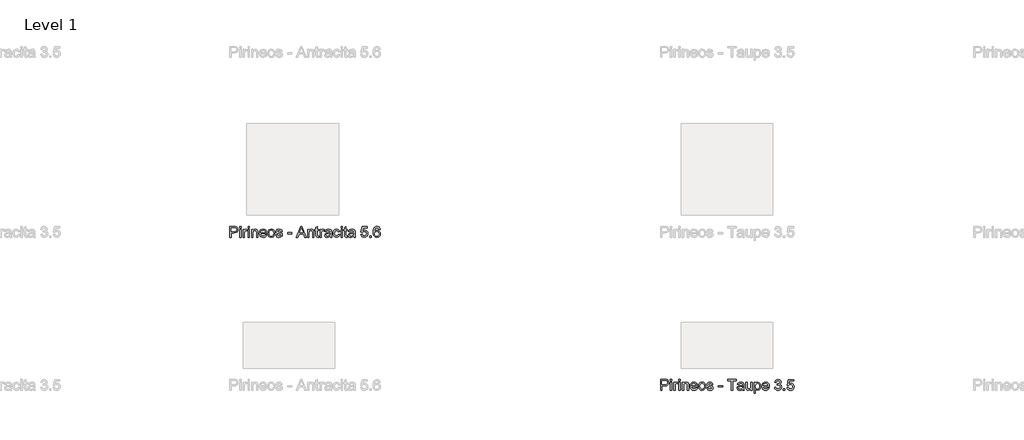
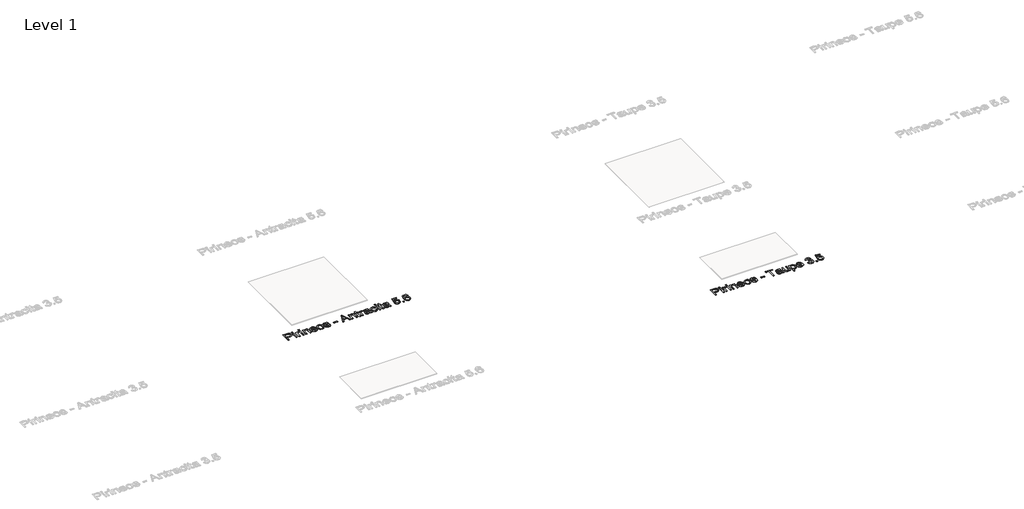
# One storey, part 24 of 80: 2 proxies.
"""IFC4 building model written with IfcOpenShell, lengths in millimetres."""

import ifcopenshell
import ifcopenshell.guid

model = None  # the IFC model being written
_history = None  # IfcOwnerHistory: only IFC2X3 demands one
_inside = {}  # id of a spatial element -> (the spatial element, [elements in it])
_under = {}  # id of a project, library or spatial element -> (it, [spatial elements below it])
_declared = {}  # id of a project -> (the project, [libraries it declares])
_typed = {}  # id of a type object -> (the type object, [elements of that type])
_made_of = {}  # id of a material, layer set ... -> (it, [elements and type objects made of it])


def new_model(schema):
    """Start an empty IFC model of exactly this schema.

    Asked for "IFC4X3", IfcOpenShell would pick the latest addendum, in which some entities
    have other attributes; the version numbers below select the first issue.
    IFC2X3 requires an IfcOwnerHistory on every rooted entity: one is made here for all.
    """
    global model, _history
    if schema == "IFC4X3":
        model = ifcopenshell.file(schema_version=(4, 3, 0, 0))
    else:
        model = ifcopenshell.file(schema=schema)
    _inside.clear()
    _under.clear()
    _declared.clear()
    _typed.clear()
    _made_of.clear()
    _history = None
    if model.schema == "IFC2X3":
        org = make("IfcOrganization", Name="unknown")
        user = make(
            "IfcPersonAndOrganization",
            ThePerson=make("IfcPerson", FamilyName="unknown"),
            TheOrganization=org,
        )
        app = make(
            "IfcApplication",
            ApplicationDeveloper=org,
            Version="unknown",
            ApplicationFullName="unknown",
            ApplicationIdentifier="unknown",
        )
        _history = make(
            "IfcOwnerHistory",
            OwningUser=user,
            OwningApplication=app,
            ChangeAction="ADDED",
            CreationDate=0,
        )
    return model


def make(cls, **values):
    """One entity of the class cls with the attributes given. An attribute that is None is left unset."""
    return model.create_entity(
        cls, **{name: value for name, value in values.items() if value is not None}
    )


def rooted(cls, **values):
    """An entity with a GlobalId (a new one), such as an element, a storey or a relation."""
    return make(cls, GlobalId=ifcopenshell.guid.new(), OwnerHistory=_history, **values)


def si_unit(unit_type, name, prefix=None):
    """IfcSIUnit, for example si_unit("LENGTHUNIT", "METRE", prefix="MILLI")."""
    return make("IfcSIUnit", UnitType=unit_type, Prefix=prefix, Name=name)


def assignment(units):
    """IfcUnitAssignment: the units of a project."""
    return None if units is None else make("IfcUnitAssignment", Units=units)


def point(xyz):
    """IfcCartesianPoint."""
    return None if xyz is None else make("IfcCartesianPoint", Coordinates=xyz)


def direction(xyz):
    """IfcDirection."""
    return None if xyz is None else make("IfcDirection", DirectionRatios=xyz)


def frame(location, z_axis=None, x_axis=None):
    """IfcAxis2Placement3D, a coordinate frame: its origin and axes. An axis left out is left unset."""
    return make(
        "IfcAxis2Placement3D",
        Location=point(location),
        Axis=direction(z_axis),
        RefDirection=direction(x_axis),
    )


def origin():
    """The frame at (0, 0, 0) with its axes left unset."""
    return frame((0.0, 0.0, 0.0))


def origin_with_axes():
    """The frame at (0, 0, 0) with the z axis (0, 0, 1) and the x axis (1, 0, 0) written out."""
    return frame((0.0, 0.0, 0.0), z_axis=(0.0, 0.0, 1.0), x_axis=(1.0, 0.0, 0.0))


def place(relative_to, where):
    """IfcLocalPlacement: puts the frame where relative to a parent placement (None: the world)."""
    return make(
        "IfcLocalPlacement", PlacementRelTo=relative_to, RelativePlacement=where
    )


def context(
    kind, dimensions, precision=None, world=None, true_north=None, identifier=None
):
    """IfcGeometricRepresentationContext, for example the 3D "Model" context."""
    return make(
        "IfcGeometricRepresentationContext",
        ContextIdentifier=identifier,
        ContextType=kind,
        CoordinateSpaceDimension=dimensions,
        Precision=precision,
        WorldCoordinateSystem=world,
        TrueNorth=true_north,
    )


def project(units=None, contexts=None):
    """IfcProject with its units and contexts."""
    return rooted(
        "IfcProject",
        Name="project",
        RepresentationContexts=contexts,
        UnitsInContext=assignment(units),
    )


def spatial(cls, under=None, at=None, **own):
    """A site, building, storey or space (cls), placed at a placement, below another one or the project."""
    s = rooted(cls, ObjectPlacement=at, **own)
    if under is not None:
        _under.setdefault(under.id(), (under, []))[1].append(s)
    return s


def polyline(points):
    """IfcPolyline through the points."""
    return make("IfcPolyline", Points=[point(p) for p in points])


def outline(outer, holes=None, kind="AREA"):
    """IfcArbitraryClosedProfileDef: a profile drawn as a closed curve; with holes, ...WithVoids."""
    if holes is None:
        return make("IfcArbitraryClosedProfileDef", ProfileType=kind, OuterCurve=outer)
    return make(
        "IfcArbitraryProfileDefWithVoids",
        ProfileType=kind,
        OuterCurve=outer,
        InnerCurves=holes,
    )


def extrude(swept, where, along, depth):
    """IfcExtrudedAreaSolid: the profile swept, set in the frame where, extruded along a direction by depth."""
    return make(
        "IfcExtrudedAreaSolid",
        SweptArea=swept,
        Position=where,
        ExtrudedDirection=direction(along),
        Depth=depth,
    )


def shape(context_of_items, identifier, shape_type, items):
    """IfcShapeRepresentation: the items that make up one representation, for example the "Body"."""
    return make(
        "IfcShapeRepresentation",
        ContextOfItems=context_of_items,
        RepresentationIdentifier=identifier,
        RepresentationType=shape_type,
        Items=items,
    )


def made_of(thing, what):
    """Note that an element or type object is made of a material, layer set ...; save() writes the relation."""
    if what is not None:
        _made_of.setdefault(what.id(), (what, []))[1].append(thing)
    return thing


def element(
    cls,
    number,
    at=None,
    inside=None,
    cuts=None,
    type_object=None,
    material=None,
    context=None,
    identifier="Body",
    shape_type=None,
    held_by="IfcProductDefinitionShape",
    body=None,
    shapes=None,
    **own,
):
    """One element of the class cls, such as IfcWall. Its Tag is "e" and its number.

    at: its placement. inside: the storey or other place that contains it. cuts: it is an
    opening in that element (IfcRelVoidsElement). A single representation is given by context,
    identifier, shape_type and body (its items); several are given by shapes. held_by: the class
    of the entity that holds the representations. save() writes the other relations.
    """
    e = rooted(cls, Tag="e%d" % number, ObjectPlacement=at, **own)
    if body is not None:
        shapes = [shape(context, identifier, shape_type, body)]
    if shapes is not None:
        e.Representation = make(held_by, Representations=shapes)
    if inside is not None:
        _inside.setdefault(inside.id(), (inside, []))[1].append(e)
    if cuts is not None:
        rooted(
            "IfcRelVoidsElement", RelatingBuildingElement=cuts, RelatedOpeningElement=e
        )
    if type_object is not None:
        _typed.setdefault(type_object.id(), (type_object, []))[1].append(e)
    return made_of(e, material)


def aggregate(whole, parts):
    """IfcRelAggregates: a whole, such as a stair, and the parts it consists of."""
    return rooted("IfcRelAggregates", RelatingObject=whole, RelatedObjects=parts)


def save(model, path):
    """Write the relations noted so far, then the file.

    IfcRelAggregates (storeys below a building ...), IfcRelContainedInSpatialStructure (elements
    in a storey), IfcRelDefinesByType, IfcRelAssociatesMaterial and IfcRelDeclares: one each for
    every whole, place, type object, material and project.
    """
    for whole, parts in _under.values():
        aggregate(whole, parts)
    for where, things in _inside.values():
        rooted(
            "IfcRelContainedInSpatialStructure",
            RelatedElements=things,
            RelatingStructure=where,
        )
    for kind, things in _typed.values():
        rooted("IfcRelDefinesByType", RelatedObjects=things, RelatingType=kind)
    for what, things in _made_of.values():
        rooted("IfcRelAssociatesMaterial", RelatedObjects=things, RelatingMaterial=what)
    for by, libraries in _declared.values():
        rooted("IfcRelDeclares", RelatingContext=by, RelatedDefinitions=libraries)
    model.write(path)


model = new_model("IFC4")

# Units and contexts
model_context = context("Model", 3, world=origin())
ifc_project = project(units=[si_unit("LENGTHUNIT", "METRE", prefix="MILLI")], contexts=[model_context])

# Site, building, storey
site = spatial("IfcSite", under=ifc_project)
building = spatial("IfcBuilding", under=site)
storey = spatial("IfcBuildingStorey", under=building, Name="Level 1", Elevation=0.0)

# Proxies
placement = place(None, origin())
element("IfcBuildingElementProxy", 1, Name="24\" Arial", ObjectType="24\" Arial", at=placement, inside=storey, context=model_context, shape_type="SweptSolid", body=[
    extrude(outline(polyline([(-15830.3068771, -616.5984808), (-15830.3068771, -498.4446346), (-15786.5184156, -498.4446346), (-15768.8645694, -499.5696346), (-15754.5136079, -505.0936731), (-15745.2107233, -516.51675), (-15741.6914925, -532.6273269), (-15744.0676944, -546.5528077), (-15751.1963002, -558.1561731), (-15764.5268291, -565.9879038), (-15785.5088002, -568.5984808), (-15815.5376464, -568.5984808), (-15815.5376464, -616.5984808), (-15830.3068771, -616.5984808)]), holes=[polyline([(-15815.5376464, -553.82925), (-15784.6434156, -553.82925), (-15771.5472617, -552.4734808), (-15762.8934156, -548.4061731), (-15758.0688964, -541.8797308), (-15756.4607233, -533.1465577), (-15760.2539925, -520.9157884), (-15770.2203387, -514.2234808), (-15784.9895694, -513.2138654), (-15815.5376464, -513.2138654), (-15815.5376464, -553.82925)])]), origin_with_axes(), (0.0, 0.0, 1.0), 2.0),
    extrude(outline(polyline([(-15723.2299541, -616.5984808), (-15723.2299541, -529.82925), (-15708.4607233, -529.82925), (-15708.4607233, -616.5984808), (-15723.2299541, -616.5984808)])), origin_with_axes(), (0.0, 0.0, 1.0), 2.0),
    extrude(outline(polyline([(-15723.2299541, -513.2138654), (-15723.2299541, -498.4446346), (-15708.4607233, -498.4446346), (-15708.4607233, -513.2138654), (-15723.2299541, -513.2138654)])), origin_with_axes(), (0.0, 0.0, 1.0), 2.0),
    extrude(outline(polyline([(-15686.3068771, -616.5984808), (-15686.3068771, -529.82925), (-15673.3838002, -529.82925), (-15673.3838002, -542.6657884), (-15664.2107233, -530.8388654), (-15654.9799541, -527.9830961), (-15640.153031, -532.5407884), (-15645.0857233, -545.7811731), (-15655.4703387, -542.7523269), (-15663.8213002, -545.6657884), (-15669.1434156, -553.7427115), (-15671.5376464, -570.9927115), (-15671.5376464, -616.5984808), (-15686.3068771, -616.5984808)])), origin_with_axes(), (0.0, 0.0, 1.0), 2.0),
    extrude(outline(polyline([(-15630.9222617, -616.5984808), (-15630.9222617, -529.82925), (-15616.153031, -529.82925), (-15616.153031, -616.5984808), (-15630.9222617, -616.5984808)])), origin_with_axes(), (0.0, 0.0, 1.0), 2.0),
    extrude(outline(polyline([(-15630.9222617, -513.2138654), (-15630.9222617, -498.4446346), (-15616.153031, -498.4446346), (-15616.153031, -513.2138654), (-15630.9222617, -513.2138654)])), origin_with_axes(), (0.0, 0.0, 1.0), 2.0),
    extrude(outline(polyline([(-15593.9991848, -616.5984808), (-15593.9991848, -529.82925), (-15579.2299541, -529.82925), (-15579.2299541, -541.9446346), (-15567.9366848, -531.4734808), (-15552.5184156, -527.9830961), (-15538.5713002, -530.7955961), (-15529.0520694, -538.1802115), (-15524.6241848, -549.0407884), (-15523.8453387, -563.3196346), (-15523.8453387, -616.5984808), (-15538.6145694, -616.5984808), (-15538.6145694, -565.3100192), (-15540.3164925, -552.2427115), (-15546.3309156, -545.3340577), (-15556.4703387, -542.7523269), (-15572.4943771, -548.5504038), (-15577.5460598, -556.9518461), (-15579.2299541, -570.5600192), (-15579.2299541, -616.5984808), (-15593.9991848, -616.5984808)])), origin_with_axes(), (0.0, 0.0, 1.0), 2.0),
    extrude(outline(polyline([(-15442.7876464, -590.7523269), (-15428.3068771, -592.5984808), (-15433.5244252, -603.5095384), (-15441.8501464, -611.6657884), (-15453.0965406, -616.7499231), (-15467.0761079, -618.4446346), (-15484.4054348, -615.5203558), (-15497.7395694, -606.7475192), (-15506.2419733, -592.6958365), (-15509.0761079, -573.9350192), (-15506.2131271, -554.5431923), (-15497.6241848, -540.0407884), (-15484.4703387, -530.9975192), (-15467.9126464, -527.9830961), (-15451.8705791, -530.9903077), (-15439.0520694, -540.0119423), (-15430.6470214, -554.4855), (-15427.8453387, -573.8484808), (-15427.9318771, -577.82925), (-15494.3068771, -577.82925), (-15491.7503867, -588.8845384), (-15485.8116848, -597.0119423), (-15477.2407714, -602.0095384), (-15466.7876464, -603.6754038), (-15452.3068771, -600.5888654), (-15442.7876464, -590.7523269)]), holes=[polyline([(-15494.3068771, -563.0600192), (-15442.6145694, -563.0600192), (-15448.528031, -549.6754038), (-15457.1386079, -544.4830961), (-15467.9703387, -542.7523269), (-15486.1578387, -548.2763654), (-15491.8801944, -554.7342981), (-15494.3068771, -563.0600192)])]), origin_with_axes(), (0.0, 0.0, 1.0), 2.0),
    extrude(outline(polyline([(-15416.7684156, -573.2138654), (-15413.5737041, -552.2931923), (-15403.9895694, -537.5888654), (-15392.1482233, -530.3845384), (-15377.9703387, -527.9830961), (-15362.4547137, -530.907375), (-15350.0616848, -539.6802115), (-15341.9378867, -553.6092981), (-15339.2299541, -572.0023269), (-15344.0184156, -598.2811731), (-15357.965531, -613.1513654), (-15377.9703387, -618.4446346), (-15393.6734637, -615.5311731), (-15406.0520694, -606.7907884), (-15414.0893291, -592.5696346), (-15416.7684156, -573.2138654)]), holes=[polyline([(-15401.9991848, -573.1850192), (-15400.2900502, -586.5516058), (-15395.1626464, -596.0744423), (-15387.4463002, -601.7751634), (-15377.9703387, -603.6754038), (-15368.5376464, -601.7643461), (-15360.8357233, -596.0311731), (-15355.7083194, -586.3821346), (-15353.9991848, -572.7234808), (-15355.7191367, -559.7463173), (-15360.8789925, -550.3532884), (-15368.5917329, -544.6525673), (-15377.9703387, -542.7523269), (-15387.4463002, -544.6453558), (-15395.1626464, -550.3244423), (-15400.2900502, -559.8256442), (-15401.9991848, -573.1850192)])]), origin_with_axes(), (0.0, 0.0, 1.0), 2.0),
    extrude(outline(polyline([(-15328.153031, -590.7523269), (-15313.3838002, -588.9061731), (-15306.5472617, -599.8677115), (-15290.8838002, -603.6754038), (-15275.8261079, -600.1850192), (-15270.9222617, -591.9927115), (-15275.8549541, -585.3580961), (-15291.0568771, -581.1465577), (-15313.2972617, -573.9205961), (-15323.0039925, -565.4830961), (-15326.3068771, -553.5696346), (-15323.653031, -542.5648269), (-15316.4126464, -534.1561731), (-15307.0232233, -529.7859808), (-15294.3164925, -527.9830961), (-15276.3453387, -530.8821346), (-15264.9222617, -538.7282884), (-15259.8453387, -551.9830961), (-15274.6145694, -553.82925), (-15280.1674541, -545.6802115), (-15293.1626464, -542.7523269), (-15307.2972617, -545.5504038), (-15311.5376464, -552.0696346), (-15309.778031, -556.3677115), (-15304.2684156, -559.6273269), (-15291.5472617, -562.7715577), (-15269.8693771, -569.7234808), (-15259.8020694, -577.5984808), (-15256.153031, -590.4350192), (-15260.4366848, -604.5696346), (-15272.7972617, -614.8244423), (-15291.0857233, -618.4446346), (-15305.9775502, -616.6994423), (-15316.8453387, -611.4638654), (-15324.1001464, -602.7955961), (-15328.153031, -590.7523269)])), origin_with_axes(), (0.0, 0.0, 1.0), 2.0),
    extrude(outline(polyline([(-15200.7684156, -581.5215577), (-15200.7684156, -566.7523269), (-15154.6145694, -566.7523269), (-15154.6145694, -581.5215577), (-15200.7684156, -581.5215577)])), origin_with_axes(), (0.0, 0.0, 1.0), 2.0),
    extrude(outline(polyline([(-15103.7588002, -616.5984808), (-15056.5953387, -498.4446346), (-15044.0184156, -498.4446346), (-14996.8549541, -616.5984808), (-15012.4607233, -616.5984808), (-15025.9895694, -579.6754038), (-15074.653031, -579.6754038), (-15088.153031, -616.5984808), (-15103.7588002, -616.5984808)]), holes=[polyline([(-15069.2299541, -564.9061731), (-15031.3838002, -564.9061731), (-15042.028031, -535.8580961), (-15050.3068771, -513.2138654), (-15057.6626464, -533.3196346), (-15069.2299541, -564.9061731)])]), origin_with_axes(), (0.0, 0.0, 1.0), 2.0),
    extrude(outline(polyline([(-14982.9222617, -616.5984808), (-14982.9222617, -529.82925), (-14968.153031, -529.82925), (-14968.153031, -541.9446346), (-14956.8597617, -531.4734808), (-14941.4414925, -527.9830961), (-14927.4943771, -530.7955961), (-14917.9751464, -538.1802115), (-14913.5472617, -549.0407884), (-14912.7684156, -563.3196346), (-14912.7684156, -616.5984808), (-14927.5376464, -616.5984808), (-14927.5376464, -565.3100192), (-14929.2395694, -552.2427115), (-14935.2539925, -545.3340577), (-14945.3934156, -542.7523269), (-14961.4174541, -548.5504038), (-14966.4691367, -556.9518461), (-14968.153031, -570.5600192), (-14968.153031, -616.5984808), (-14982.9222617, -616.5984808)])), origin_with_axes(), (0.0, 0.0, 1.0), 2.0),
    extrude(outline(polyline([(-14861.0761079, -604.2811731), (-14859.2299541, -617.0311731), (-14870.278031, -618.4446346), (-14882.653031, -615.9927115), (-14888.8261079, -609.5600192), (-14890.6145694, -592.8004038), (-14890.6145694, -544.5984808), (-14901.6914925, -544.5984808), (-14901.6914925, -529.82925), (-14890.6145694, -529.82925), (-14890.6145694, -508.7427115), (-14875.8453387, -500.0600192), (-14875.8453387, -529.82925), (-14861.0761079, -529.82925), (-14861.0761079, -544.5984808), (-14875.8453387, -544.5984808), (-14875.8453387, -592.3677115), (-14875.0664925, -599.9830961), (-14872.5424541, -602.6802115), (-14867.5088002, -603.6754038), (-14861.0761079, -604.2811731)])), origin_with_axes(), (0.0, 0.0, 1.0), 2.0),
    extrude(outline(polyline([(-14846.3068771, -616.5984808), (-14846.3068771, -529.82925), (-14833.3838002, -529.82925), (-14833.3838002, -542.6657884), (-14824.2107233, -530.8388654), (-14814.9799541, -527.9830961), (-14800.153031, -532.5407884), (-14805.0857233, -545.7811731), (-14815.4703387, -542.7523269), (-14823.8213002, -545.6657884), (-14829.1434156, -553.7427115), (-14831.5376464, -570.9927115), (-14831.5376464, -616.5984808), (-14846.3068771, -616.5984808)])), origin_with_axes(), (0.0, 0.0, 1.0), 2.0),
    extrude(outline(polyline([(-14735.5376464, -605.5215577), (-14749.8597617, -615.5311731), (-14765.6818771, -618.4446346), (-14778.0244252, -616.6922308), (-14787.1289925, -611.4350192), (-14792.7431752, -603.4518461), (-14794.6145694, -593.5215577), (-14791.7876464, -581.8388654), (-14784.3597617, -573.3580961), (-14774.0184156, -568.5119423), (-14761.2395694, -566.2907884), (-14735.6241848, -561.2138654), (-14735.5376464, -557.9254038), (-14739.6049541, -547.0215577), (-14755.9318771, -542.7523269), (-14770.8741848, -545.5936731), (-14777.9991848, -555.6754038), (-14792.7684156, -553.82925), (-14786.3789925, -539.4061731), (-14773.5136079, -530.95425), (-14754.028031, -527.9830961), (-14736.1289925, -530.6080961), (-14726.0184156, -537.1994423), (-14721.4895694, -547.2234808), (-14720.7684156, -560.1465577), (-14720.7684156, -578.5215577), (-14720.0184156, -604.1802115), (-14717.0761079, -616.5984808), (-14731.8453387, -616.5984808), (-14735.5376464, -605.5215577)]), holes=[polyline([(-14735.5376464, -575.9830961), (-14759.3645694, -580.5119423), (-14772.0713002, -582.9061731), (-14777.8261079, -586.8004038), (-14779.8453387, -592.4830961), (-14775.4463002, -600.4734808), (-14762.5376464, -603.6754038), (-14747.5953387, -600.14175), (-14737.9607233, -591.5888654), (-14735.6241848, -580.1657884), (-14735.5376464, -575.9830961)])]), origin_with_axes(), (0.0, 0.0, 1.0), 2.0),
    extrude(outline(polyline([(-14645.0761079, -585.2138654), (-14630.3068771, -587.0600192), (-14634.4246656, -600.1958365), (-14642.1626464, -610.1225192), (-14652.7924541, -616.3641058), (-14665.5857233, -618.4446346), (-14681.2960598, -615.5419904), (-14693.5809156, -606.8340577), (-14701.5100021, -592.7030481), (-14704.153031, -573.5311731), (-14699.6386079, -548.9975192), (-14693.9414925, -539.7992019), (-14685.8789925, -533.2330961), (-14665.7876464, -527.9830961), (-14653.3080791, -529.7859808), (-14643.3309156, -535.1946346), (-14636.1734637, -543.9205961), (-14632.153031, -555.6754038), (-14646.9222617, -557.5215577), (-14653.7732233, -546.4590577), (-14665.6722617, -542.7523269), (-14675.2167329, -544.5768461), (-14682.7924541, -550.0504038), (-14687.7359637, -559.4686731), (-14689.3838002, -573.1273269), (-14687.7720214, -586.969875), (-14682.9366848, -596.4205961), (-14675.4979829, -601.8617019), (-14666.0761079, -603.6754038), (-14652.1578387, -599.1465577), (-14645.0761079, -585.2138654)])), origin_with_axes(), (0.0, 0.0, 1.0), 2.0),
    extrude(outline(polyline([(-14617.3838002, -616.5984808), (-14617.3838002, -529.82925), (-14602.6145694, -529.82925), (-14602.6145694, -616.5984808), (-14617.3838002, -616.5984808)])), origin_with_axes(), (0.0, 0.0, 1.0), 2.0),
    extrude(outline(polyline([(-14617.3838002, -513.2138654), (-14617.3838002, -498.4446346), (-14602.6145694, -498.4446346), (-14602.6145694, -513.2138654), (-14617.3838002, -513.2138654)])), origin_with_axes(), (0.0, 0.0, 1.0), 2.0),
    extrude(outline(polyline([(-14549.0761079, -604.2811731), (-14547.2299541, -617.0311731), (-14558.278031, -618.4446346), (-14570.653031, -615.9927115), (-14576.8261079, -609.5600192), (-14578.6145694, -592.8004038), (-14578.6145694, -544.5984808), (-14589.6914925, -544.5984808), (-14589.6914925, -529.82925), (-14578.6145694, -529.82925), (-14578.6145694, -508.7427115), (-14563.8453387, -500.0600192), (-14563.8453387, -529.82925), (-14549.0761079, -529.82925), (-14549.0761079, -544.5984808), (-14563.8453387, -544.5984808), (-14563.8453387, -592.3677115), (-14563.0664925, -599.9830961), (-14560.5424541, -602.6802115), (-14555.5088002, -603.6754038), (-14549.0761079, -604.2811731)])), origin_with_axes(), (0.0, 0.0, 1.0), 2.0),
    extrude(outline(polyline([(-14478.9222617, -605.5215577), (-14493.2443771, -615.5311731), (-14509.0664925, -618.4446346), (-14521.4090406, -616.6922308), (-14530.5136079, -611.4350192), (-14536.1277906, -603.4518461), (-14537.9991848, -593.5215577), (-14535.1722617, -581.8388654), (-14527.7443771, -573.3580961), (-14517.403031, -568.5119423), (-14504.6241848, -566.2907884), (-14479.0088002, -561.2138654), (-14478.9222617, -557.9254038), (-14482.9895694, -547.0215577), (-14499.3164925, -542.7523269), (-14514.2588002, -545.5936731), (-14521.3838002, -555.6754038), (-14536.153031, -553.82925), (-14529.7636079, -539.4061731), (-14516.8982233, -530.95425), (-14497.4126464, -527.9830961), (-14479.5136079, -530.6080961), (-14469.403031, -537.1994423), (-14464.8741848, -547.2234808), (-14464.153031, -560.1465577), (-14464.153031, -578.5215577), (-14463.403031, -604.1802115), (-14460.4607233, -616.5984808), (-14475.2299541, -616.5984808), (-14478.9222617, -605.5215577)]), holes=[polyline([(-14478.9222617, -575.9830961), (-14502.7491848, -580.5119423), (-14515.4559156, -582.9061731), (-14521.2107233, -586.8004038), (-14523.2299541, -592.4830961), (-14518.8309156, -600.4734808), (-14505.9222617, -603.6754038), (-14490.9799541, -600.14175), (-14481.3453387, -591.5888654), (-14479.0088002, -580.1657884), (-14478.9222617, -575.9830961)])]), origin_with_axes(), (0.0, 0.0, 1.0), 2.0),
    extrude(outline(polyline([(-14401.3838002, -585.2138654), (-14386.6145694, -583.3677115), (-14379.1722617, -598.5840577), (-14363.7395694, -603.6754038), (-14353.153031, -601.9049711), (-14345.2203387, -596.5936731), (-14340.2660117, -588.3544904), (-14338.6145694, -577.8004038), (-14340.1614444, -567.8629038), (-14344.8020694, -560.2619423), (-14352.5725021, -555.4374231), (-14363.5088002, -553.82925), (-14376.4751464, -556.3965577), (-14384.7684156, -563.0600192), (-14399.5376464, -561.2138654), (-14386.6145694, -500.2907884), (-14329.3838002, -500.2907884), (-14329.3838002, -515.0600192), (-14374.6722617, -515.0600192), (-14380.9895694, -547.5984808), (-14370.4390887, -541.1946346), (-14359.3838002, -539.0600192), (-14345.5845214, -541.7066538), (-14334.1289925, -549.6465577), (-14326.4162521, -561.7475192), (-14323.8453387, -576.8773269), (-14326.1602425, -591.6465577), (-14333.1049541, -604.2811731), (-14346.403031, -614.9037692), (-14363.7972617, -618.4446346), (-14378.3032714, -616.1693942), (-14389.8597617, -609.3436731), (-14397.7816367, -598.7607404), (-14401.3838002, -585.2138654)])), origin_with_axes(), (0.0, 0.0, 1.0), 2.0),
    extrude(outline(polyline([(-14303.5376464, -616.5984808), (-14303.5376464, -601.82925), (-14288.7684156, -601.82925), (-14288.7684156, -616.5984808), (-14303.5376464, -616.5984808)])), origin_with_axes(), (0.0, 0.0, 1.0), 2.0),
    extrude(outline(polyline([(-14189.0761079, -529.82925), (-14203.8453387, -531.6754038), (-14209.4414925, -519.3580961), (-14216.1410117, -514.7499231), (-14224.2395694, -513.2138654), (-14237.5664925, -516.7907884), (-14247.6482233, -530.2186731), (-14251.8453387, -556.5407884), (-14238.8213002, -544.7571346), (-14222.6818771, -540.9061731), (-14209.0376464, -543.5383846), (-14197.5857233, -551.4350192), (-14189.8188964, -563.4999231), (-14187.2299541, -578.6369423), (-14192.1049541, -599.01675), (-14205.5184156, -613.4398269), (-14224.8741848, -618.4446346), (-14241.6301944, -615.1273269), (-14254.9751464, -605.1754038), (-14263.7047137, -587.6080961), (-14266.6145694, -561.4446346), (-14263.3838002, -532.0287692), (-14253.6914925, -511.9157884), (-14240.4583194, -501.8124231), (-14223.3164925, -498.4446346), (-14210.3573579, -500.5287692), (-14199.9799541, -506.7811731), (-14192.7107233, -516.7114615), (-14189.0761079, -529.82925)]), holes=[polyline([(-14251.8453387, -578.4061731), (-14248.4270694, -591.1994423), (-14239.340531, -600.4879038), (-14226.028031, -603.6754038), (-14216.2816367, -602.0239615), (-14208.6193771, -597.0696346), (-14203.6542329, -589.2811731), (-14201.9991848, -579.1273269), (-14203.6325983, -569.3809327), (-14208.5328387, -561.9494423), (-14216.324906, -557.2439134), (-14226.6338002, -555.6754038), (-14236.3657714, -557.2439134), (-14244.5039925, -561.9494423), (-14250.0100021, -569.2006442), (-14251.8453387, -578.4061731)])]), origin_with_axes(), (0.0, 0.0, 1.0), 2.0),
])
element("IfcBuildingElementProxy", 2, Name="24\" Arial", ObjectType="24\" Arial", at=placement, inside=storey, context=model_context, shape_type="SweptSolid", body=[
    extrude(outline(polyline([(-11130.153031, -2287.8052427), (-11130.153031, -2169.6513966), (-11086.3645694, -2169.6513966), (-11068.7107233, -2170.7763966), (-11054.3597617, -2176.300435), (-11045.0568771, -2187.723512), (-11041.5376464, -2203.8340889), (-11043.9138483, -2217.7595697), (-11051.0424541, -2229.362935), (-11064.3729829, -2237.1946658), (-11085.3549541, -2239.8052427), (-11115.3838002, -2239.8052427), (-11115.3838002, -2287.8052427), (-11130.153031, -2287.8052427)]), holes=[polyline([(-11115.3838002, -2225.036012), (-11084.4895694, -2225.036012), (-11071.3934156, -2223.6802427), (-11062.7395694, -2219.612935), (-11057.9150502, -2213.0864927), (-11056.3068771, -2204.3533197), (-11060.1001464, -2192.1225504), (-11070.0664925, -2185.4302427), (-11084.8357233, -2184.4206273), (-11115.3838002, -2184.4206273), (-11115.3838002, -2225.036012)])]), origin_with_axes(), (0.0, 0.0, 1.0), 2.0),
    extrude(outline(polyline([(-11023.0761079, -2287.8052427), (-11023.0761079, -2201.036012), (-11008.3068771, -2201.036012), (-11008.3068771, -2287.8052427), (-11023.0761079, -2287.8052427)])), origin_with_axes(), (0.0, 0.0, 1.0), 2.0),
    extrude(outline(polyline([(-11023.0761079, -2184.4206273), (-11023.0761079, -2169.6513966), (-11008.3068771, -2169.6513966), (-11008.3068771, -2184.4206273), (-11023.0761079, -2184.4206273)])), origin_with_axes(), (0.0, 0.0, 1.0), 2.0),
    extrude(outline(polyline([(-10986.153031, -2287.8052427), (-10986.153031, -2201.036012), (-10973.2299541, -2201.036012), (-10973.2299541, -2213.8725504), (-10964.0568771, -2202.0456273), (-10954.8261079, -2199.1898581), (-10939.9991848, -2203.7475504), (-10944.9318771, -2216.987935), (-10955.3164925, -2213.9590889), (-10963.6674541, -2216.8725504), (-10968.9895694, -2224.9494735), (-10971.3838002, -2242.1994735), (-10971.3838002, -2287.8052427), (-10986.153031, -2287.8052427)])), origin_with_axes(), (0.0, 0.0, 1.0), 2.0),
    extrude(outline(polyline([(-10930.7684156, -2287.8052427), (-10930.7684156, -2201.036012), (-10915.9991848, -2201.036012), (-10915.9991848, -2287.8052427), (-10930.7684156, -2287.8052427)])), origin_with_axes(), (0.0, 0.0, 1.0), 2.0),
    extrude(outline(polyline([(-10930.7684156, -2184.4206273), (-10930.7684156, -2169.6513966), (-10915.9991848, -2169.6513966), (-10915.9991848, -2184.4206273), (-10930.7684156, -2184.4206273)])), origin_with_axes(), (0.0, 0.0, 1.0), 2.0),
    extrude(outline(polyline([(-10893.8453387, -2287.8052427), (-10893.8453387, -2201.036012), (-10879.0761079, -2201.036012), (-10879.0761079, -2213.1513966), (-10867.7828387, -2202.6802427), (-10852.3645694, -2199.1898581), (-10838.4174541, -2202.0023581), (-10828.8982233, -2209.3869735), (-10824.4703387, -2220.2475504), (-10823.6914925, -2234.5263966), (-10823.6914925, -2287.8052427), (-10838.4607233, -2287.8052427), (-10838.4607233, -2236.5167812), (-10840.1626464, -2223.4494735), (-10846.1770694, -2216.5408197), (-10856.3164925, -2213.9590889), (-10872.340531, -2219.7571658), (-10877.3922137, -2228.1586081), (-10879.0761079, -2241.7667812), (-10879.0761079, -2287.8052427), (-10893.8453387, -2287.8052427)])), origin_with_axes(), (0.0, 0.0, 1.0), 2.0),
    extrude(outline(polyline([(-10742.6338002, -2261.9590889), (-10728.153031, -2263.8052427), (-10733.3705791, -2274.7163004), (-10741.6963002, -2282.8725504), (-10752.9426944, -2287.956685), (-10766.9222617, -2289.6513966), (-10784.2515887, -2286.7271177), (-10797.5857233, -2277.9542812), (-10806.0881271, -2263.9025985), (-10808.9222617, -2245.1417812), (-10806.059281, -2225.7499543), (-10797.4703387, -2211.2475504), (-10784.3164925, -2202.2042812), (-10767.7588002, -2199.1898581), (-10751.7167329, -2202.1970697), (-10738.8982233, -2211.2187043), (-10730.4931752, -2225.692262), (-10727.6914925, -2245.0552427), (-10727.778031, -2249.036012), (-10794.153031, -2249.036012), (-10791.5965406, -2260.0913004), (-10785.6578387, -2268.2187043), (-10777.0869252, -2273.2163004), (-10766.6338002, -2274.8821658), (-10752.153031, -2271.7956273), (-10742.6338002, -2261.9590889)]), holes=[polyline([(-10794.153031, -2234.2667812), (-10742.4607233, -2234.2667812), (-10748.3741848, -2220.8821658), (-10756.9847617, -2215.6898581), (-10767.8164925, -2213.9590889), (-10786.0039925, -2219.4831273), (-10791.7263483, -2225.94106), (-10794.153031, -2234.2667812)])]), origin_with_axes(), (0.0, 0.0, 1.0), 2.0),
    extrude(outline(polyline([(-10716.6145694, -2244.4206273), (-10713.4198579, -2223.4999543), (-10703.8357233, -2208.7956273), (-10691.9943771, -2201.5913004), (-10677.8164925, -2199.1898581), (-10662.3008675, -2202.114137), (-10649.9078387, -2210.8869735), (-10641.7840406, -2224.81606), (-10639.0761079, -2243.2090889), (-10643.8645694, -2269.487935), (-10657.8116848, -2284.3581273), (-10677.8164925, -2289.6513966), (-10693.5196175, -2286.737935), (-10705.8982233, -2277.9975504), (-10713.9354829, -2263.7763966), (-10716.6145694, -2244.4206273)]), holes=[polyline([(-10701.8453387, -2244.3917812), (-10700.1362041, -2257.7583677), (-10695.0088002, -2267.2812043), (-10687.2924541, -2272.9819254), (-10677.8164925, -2274.8821658), (-10668.3838002, -2272.9711081), (-10660.6818771, -2267.237935), (-10655.5544733, -2257.5888966), (-10653.8453387, -2243.9302427), (-10655.5652906, -2230.9530793), (-10660.7251464, -2221.5600504), (-10668.4378867, -2215.8593293), (-10677.8164925, -2213.9590889), (-10687.2924541, -2215.8521177), (-10695.0088002, -2221.5312043), (-10700.1362041, -2231.0324062), (-10701.8453387, -2244.3917812)])]), origin_with_axes(), (0.0, 0.0, 1.0), 2.0),
    extrude(outline(polyline([(-10627.9991848, -2261.9590889), (-10613.2299541, -2260.112935), (-10606.3934156, -2271.0744735), (-10590.7299541, -2274.8821658), (-10575.6722617, -2271.3917812), (-10570.7684156, -2263.1994735), (-10575.7011079, -2256.5648581), (-10590.903031, -2252.3533197), (-10613.1434156, -2245.1273581), (-10622.8501464, -2236.6898581), (-10626.153031, -2224.7763966), (-10623.4991848, -2213.7715889), (-10616.2588002, -2205.362935), (-10606.8693771, -2200.9927427), (-10594.1626464, -2199.1898581), (-10576.1914925, -2202.0888966), (-10564.7684156, -2209.9350504), (-10559.6914925, -2223.1898581), (-10574.4607233, -2225.036012), (-10580.0136079, -2216.8869735), (-10593.0088002, -2213.9590889), (-10607.1434156, -2216.7571658), (-10611.3838002, -2223.2763966), (-10609.6241848, -2227.5744735), (-10604.1145694, -2230.8340889), (-10591.3934156, -2233.9783197), (-10569.715531, -2240.9302427), (-10559.6482233, -2248.8052427), (-10555.9991848, -2261.6417812), (-10560.2828387, -2275.7763966), (-10572.6434156, -2286.0312043), (-10590.9318771, -2289.6513966), (-10605.8237041, -2287.9062043), (-10616.6914925, -2282.6706273), (-10623.9463002, -2274.0023581), (-10627.9991848, -2261.9590889)])), origin_with_axes(), (0.0, 0.0, 1.0), 2.0),
    extrude(outline(polyline([(-10500.6145694, -2252.7283197), (-10500.6145694, -2237.9590889), (-10454.4607233, -2237.9590889), (-10454.4607233, -2252.7283197), (-10500.6145694, -2252.7283197)])), origin_with_axes(), (0.0, 0.0, 1.0), 2.0),
    extrude(outline(polyline([(-10360.3068771, -2287.8052427), (-10360.3068771, -2184.4206273), (-10399.0761079, -2184.4206273), (-10399.0761079, -2169.6513966), (-10306.7684156, -2169.6513966), (-10306.7684156, -2184.4206273), (-10345.5376464, -2184.4206273), (-10345.5376464, -2287.8052427), (-10360.3068771, -2287.8052427)])), origin_with_axes(), (0.0, 0.0, 1.0), 2.0),
    extrude(outline(polyline([(-10236.6145694, -2276.7283197), (-10250.9366848, -2286.737935), (-10266.7588002, -2289.6513966), (-10279.1013483, -2287.8989927), (-10288.2059156, -2282.6417812), (-10293.8200983, -2274.6586081), (-10295.6914925, -2264.7283197), (-10292.8645694, -2253.0456273), (-10285.4366848, -2244.5648581), (-10275.0953387, -2239.7187043), (-10262.3164925, -2237.4975504), (-10236.7011079, -2232.4206273), (-10236.6145694, -2229.1321658), (-10240.6818771, -2218.2283197), (-10257.0088002, -2213.9590889), (-10271.9511079, -2216.800435), (-10279.0761079, -2226.8821658), (-10293.8453387, -2225.036012), (-10287.4559156, -2210.612935), (-10274.590531, -2202.161012), (-10255.1049541, -2199.1898581), (-10237.2059156, -2201.8148581), (-10227.0953387, -2208.4062043), (-10222.5664925, -2218.4302427), (-10221.8453387, -2231.3533197), (-10221.8453387, -2249.7283197), (-10221.0953387, -2275.3869735), (-10218.153031, -2287.8052427), (-10232.9222617, -2287.8052427), (-10236.6145694, -2276.7283197)]), holes=[polyline([(-10236.6145694, -2247.1898581), (-10260.4414925, -2251.7187043), (-10273.1482233, -2254.112935), (-10278.903031, -2258.0071658), (-10280.9222617, -2263.6898581), (-10276.5232233, -2271.6802427), (-10263.6145694, -2274.8821658), (-10248.6722617, -2271.348512), (-10239.0376464, -2262.7956273), (-10236.7011079, -2251.3725504), (-10236.6145694, -2247.1898581)])]), origin_with_axes(), (0.0, 0.0, 1.0), 2.0),
    extrude(outline(polyline([(-10146.153031, -2287.8052427), (-10146.153031, -2272.8917812), (-10157.7203387, -2285.4614927), (-10172.8068771, -2289.6513966), (-10186.6963002, -2286.7090889), (-10196.2732233, -2279.3244735), (-10200.6722617, -2268.4494735), (-10201.5376464, -2254.7187043), (-10201.5376464, -2201.036012), (-10186.7684156, -2201.036012), (-10186.7684156, -2247.7667812), (-10185.8741848, -2262.8244735), (-10180.0328387, -2271.6658197), (-10169.028031, -2274.8821658), (-10156.6963002, -2271.5937043), (-10148.5472617, -2262.6369735), (-10146.153031, -2246.1802427), (-10146.153031, -2201.036012), (-10131.3838002, -2201.036012), (-10131.3838002, -2287.8052427), (-10146.153031, -2287.8052427)])), origin_with_axes(), (0.0, 0.0, 1.0), 2.0),
    extrude(outline(polyline([(-10111.0761079, -2321.036012), (-10111.0761079, -2201.036012), (-10096.3068771, -2201.036012), (-10096.3068771, -2215.5167812), (-10086.0953387, -2203.2715889), (-10072.3068771, -2199.1898581), (-10053.5857233, -2204.9013966), (-10041.3549541, -2220.9975504), (-10037.2299541, -2243.7571658), (-10041.8886079, -2267.6850504), (-10047.6001464, -2277.0744735), (-10055.4174541, -2283.9831273), (-10074.0953387, -2289.6513966), (-10086.9463002, -2285.8581273), (-10096.3068771, -2276.2667812), (-10096.3068771, -2321.036012), (-10111.0761079, -2321.036012)]), holes=[polyline([(-10096.3068771, -2245.112935), (-10094.7095214, -2258.3533197), (-10089.9174541, -2267.612935), (-10082.8465406, -2273.0648581), (-10074.4126464, -2274.8821658), (-10065.8417329, -2272.9999543), (-10058.590531, -2267.3533197), (-10053.6470214, -2257.754762), (-10051.9991848, -2244.0167812), (-10053.6073579, -2230.848512), (-10058.4318771, -2221.4590889), (-10065.4919733, -2215.8340889), (-10073.8068771, -2213.9590889), (-10082.1542329, -2215.9530793), (-10089.4847617, -2221.9350504), (-10094.6013483, -2231.7175023), (-10096.3068771, -2245.112935)])]), origin_with_axes(), (0.0, 0.0, 1.0), 2.0),
    extrude(outline(polyline([(-9959.8645694, -2261.9590889), (-9945.3838002, -2263.8052427), (-9950.6013483, -2274.7163004), (-9958.9270694, -2282.8725504), (-9970.1734637, -2287.956685), (-9984.153031, -2289.6513966), (-10001.4823579, -2286.7271177), (-10014.8164925, -2277.9542812), (-10023.3188964, -2263.9025985), (-10026.153031, -2245.1417812), (-10023.2900502, -2225.7499543), (-10014.7011079, -2211.2475504), (-10001.5472617, -2202.2042812), (-9984.9895694, -2199.1898581), (-9968.9475021, -2202.1970697), (-9956.1289925, -2211.2187043), (-9947.7239444, -2225.692262), (-9944.9222617, -2245.0552427), (-9945.0088002, -2249.036012), (-10011.3838002, -2249.036012), (-10008.8273098, -2260.0913004), (-10002.8886079, -2268.2187043), (-9994.3176944, -2273.2163004), (-9983.8645694, -2274.8821658), (-9969.3838002, -2271.7956273), (-9959.8645694, -2261.9590889)]), holes=[polyline([(-10011.3838002, -2234.2667812), (-9959.6914925, -2234.2667812), (-9965.6049541, -2220.8821658), (-9974.215531, -2215.6898581), (-9985.0472617, -2213.9590889), (-10003.2347617, -2219.4831273), (-10008.9571175, -2225.94106), (-10011.3838002, -2234.2667812)])]), origin_with_axes(), (0.0, 0.0, 1.0), 2.0),
    extrude(outline(polyline([(-9887.6914925, -2256.4206273), (-9872.9222617, -2254.5744735), (-9864.7732233, -2270.1225504), (-9849.528031, -2274.8821658), (-9839.403031, -2273.2451466), (-9831.5857233, -2268.3340889), (-9826.5881271, -2261.0071658), (-9824.9222617, -2252.1225504), (-9826.5737041, -2243.6886562), (-9831.528031, -2236.848512), (-9839.028031, -2232.31606), (-9848.3164925, -2230.8052427), (-9858.6722617, -2232.4206273), (-9857.028031, -2217.6513966), (-9854.6626464, -2217.8244735), (-9837.903031, -2213.5840889), (-9832.3213002, -2208.2042812), (-9830.4607233, -2200.5456273), (-9835.8549541, -2188.9927427), (-9849.7588002, -2184.4206273), (-9863.8357233, -2189.036012), (-9871.0761079, -2202.8821658), (-9885.8453387, -2201.036012), (-9881.496781, -2187.7739927), (-9873.7588002, -2177.8725504), (-9863.1722617, -2171.706685), (-9850.278031, -2169.6513966), (-9832.465531, -2173.7042812), (-9820.0039925, -2184.7812043), (-9815.6914925, -2199.6802427), (-9819.7876464, -2213.2956273), (-9831.903031, -2223.0744735), (-9822.6578387, -2226.8100504), (-9815.8068771, -2233.1706273), (-9811.5664925, -2241.8100504), (-9810.153031, -2252.3821658), (-9812.9799541, -2266.7763966), (-9821.4607233, -2278.8052427), (-9834.2612041, -2286.9398581), (-9850.0472617, -2289.6513966), (-9864.3261079, -2287.3364927), (-9875.9511079, -2280.3917812), (-9884.0352425, -2269.769185), (-9887.6914925, -2256.4206273)])), origin_with_axes(), (0.0, 0.0, 1.0), 2.0),
    extrude(outline(polyline([(-9789.8453387, -2287.8052427), (-9789.8453387, -2273.036012), (-9775.0761079, -2273.036012), (-9775.0761079, -2287.8052427), (-9789.8453387, -2287.8052427)])), origin_with_axes(), (0.0, 0.0, 1.0), 2.0),
    extrude(outline(polyline([(-9751.0761079, -2256.4206273), (-9736.3068771, -2254.5744735), (-9728.8645694, -2269.7908197), (-9713.4318771, -2274.8821658), (-9702.8453387, -2273.1117331), (-9694.9126464, -2267.800435), (-9689.9583194, -2259.5612523), (-9688.3068771, -2249.0071658), (-9689.8537521, -2239.0696658), (-9694.4943771, -2231.4687043), (-9702.2648098, -2226.644185), (-9713.2011079, -2225.036012), (-9726.1674541, -2227.6033197), (-9734.4607233, -2234.2667812), (-9749.2299541, -2232.4206273), (-9736.3068771, -2171.4975504), (-9679.0761079, -2171.4975504), (-9679.0761079, -2186.2667812), (-9724.3645694, -2186.2667812), (-9730.6818771, -2218.8052427), (-9720.1313964, -2212.4013966), (-9709.0761079, -2210.2667812), (-9695.2768291, -2212.9134158), (-9683.8213002, -2220.8533197), (-9676.1085598, -2232.9542812), (-9673.5376464, -2248.0840889), (-9675.8525502, -2262.8533197), (-9682.7972617, -2275.487935), (-9696.0953387, -2286.1105312), (-9713.4895694, -2289.6513966), (-9727.9955791, -2287.3761562), (-9739.5520694, -2280.550435), (-9747.4739444, -2269.9675023), (-9751.0761079, -2256.4206273)])), origin_with_axes(), (0.0, 0.0, 1.0), 2.0),
])

save(model, "model.ifc")
